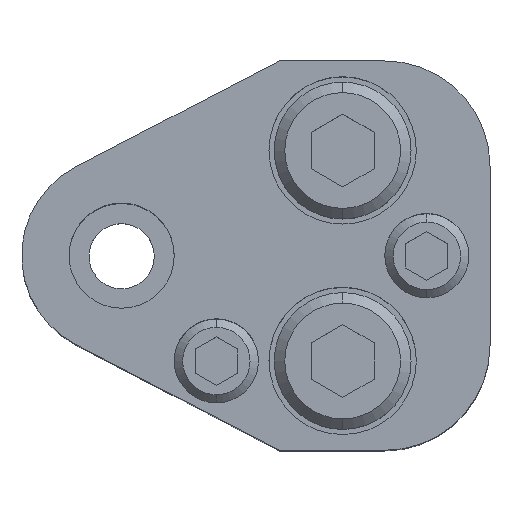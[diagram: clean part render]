
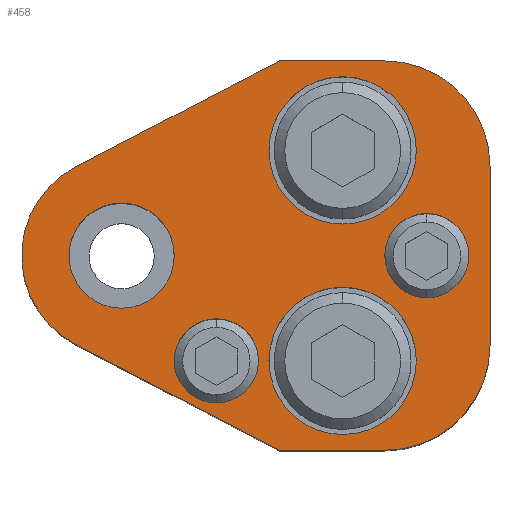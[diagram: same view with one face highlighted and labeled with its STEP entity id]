
A CAD part, top view. The second image highlights one B-rep face of the part: STEP entity #458.
In plain terms, the highlighted planar face has unit normal (0, 0, 1).
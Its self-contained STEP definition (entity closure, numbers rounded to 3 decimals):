
#217=FACE_BOUND('',#825,.T.);
#218=FACE_BOUND('',#826,.T.);
#219=FACE_BOUND('',#827,.T.);
#220=FACE_BOUND('',#828,.T.);
#221=FACE_BOUND('',#829,.T.);
#222=FACE_BOUND('',#830,.T.);
#273=CIRCLE('',#2646,9.5);
#275=CIRCLE('',#2651,10.);
#277=CIRCLE('',#2655,10.);
#295=CIRCLE('',#2683,7.);
#297=CIRCLE('',#2686,7.);
#299=CIRCLE('',#2690,7.);
#301=CIRCLE('',#2693,7.);
#303=CIRCLE('',#2697,4.);
#304=CIRCLE('',#2698,4.);
#305=CIRCLE('',#2699,4.);
#306=CIRCLE('',#2700,4.);
#307=CIRCLE('',#2701,5.);
#308=CIRCLE('',#2702,5.);
#458=ADVANCED_FACE('',(#217,#218,#219,#220,#221,#222),#588,.T.);
#588=PLANE('',#2703);
#825=EDGE_LOOP('',(#1181,#1182,#1183,#1184,#1185,#1186,#1187,#1188));
#826=EDGE_LOOP('',(#1189,#1190));
#827=EDGE_LOOP('',(#1191,#1192));
#828=EDGE_LOOP('',(#1193,#1194));
#829=EDGE_LOOP('',(#1195,#1196));
#830=EDGE_LOOP('',(#1197,#1198));
#1181=ORIENTED_EDGE('',*,*,#1934,.T.);
#1182=ORIENTED_EDGE('',*,*,#1938,.T.);
#1183=ORIENTED_EDGE('',*,*,#1941,.T.);
#1184=ORIENTED_EDGE('',*,*,#1944,.T.);
#1185=ORIENTED_EDGE('',*,*,#1947,.T.);
#1186=ORIENTED_EDGE('',*,*,#1950,.T.);
#1187=ORIENTED_EDGE('',*,*,#1953,.T.);
#1188=ORIENTED_EDGE('',*,*,#1956,.T.);
#1189=ORIENTED_EDGE('',*,*,#1991,.F.);
#1190=ORIENTED_EDGE('',*,*,#1992,.F.);
#1191=ORIENTED_EDGE('',*,*,#1993,.F.);
#1192=ORIENTED_EDGE('',*,*,#1994,.F.);
#1193=ORIENTED_EDGE('',*,*,#1989,.F.);
#1194=ORIENTED_EDGE('',*,*,#1985,.F.);
#1195=ORIENTED_EDGE('',*,*,#1983,.F.);
#1196=ORIENTED_EDGE('',*,*,#1979,.F.);
#1197=ORIENTED_EDGE('',*,*,#1995,.T.);
#1198=ORIENTED_EDGE('',*,*,#1996,.T.);
#1688=VERTEX_POINT('',#3846);
#1689=VERTEX_POINT('',#3848);
#1692=VERTEX_POINT('',#3855);
#1694=VERTEX_POINT('',#3861);
#1696=VERTEX_POINT('',#3867);
#1698=VERTEX_POINT('',#3873);
#1700=VERTEX_POINT('',#3879);
#1702=VERTEX_POINT('',#3885);
#1719=VERTEX_POINT('',#3938);
#1720=VERTEX_POINT('',#3939);
#1723=VERTEX_POINT('',#3951);
#1724=VERTEX_POINT('',#3952);
#1727=VERTEX_POINT('',#3964);
#1728=VERTEX_POINT('',#3965);
#1729=VERTEX_POINT('',#3968);
#1730=VERTEX_POINT('',#3969);
#1731=VERTEX_POINT('',#3972);
#1732=VERTEX_POINT('',#3973);
#1934=EDGE_CURVE('',#1689,#1688,#273,.T.);
#1938=EDGE_CURVE('',#1688,#1692,#2266,.T.);
#1941=EDGE_CURVE('',#1692,#1694,#2269,.T.);
#1944=EDGE_CURVE('',#1694,#1696,#275,.T.);
#1947=EDGE_CURVE('',#1696,#1698,#2273,.T.);
#1950=EDGE_CURVE('',#1698,#1700,#277,.T.);
#1953=EDGE_CURVE('',#1700,#1702,#2277,.T.);
#1956=EDGE_CURVE('',#1702,#1689,#2280,.T.);
#1979=EDGE_CURVE('',#1719,#1720,#295,.T.);
#1983=EDGE_CURVE('',#1720,#1719,#297,.T.);
#1985=EDGE_CURVE('',#1723,#1724,#299,.T.);
#1989=EDGE_CURVE('',#1724,#1723,#301,.T.);
#1991=EDGE_CURVE('',#1727,#1728,#303,.T.);
#1992=EDGE_CURVE('',#1728,#1727,#304,.T.);
#1993=EDGE_CURVE('',#1729,#1730,#305,.T.);
#1994=EDGE_CURVE('',#1730,#1729,#306,.T.);
#1995=EDGE_CURVE('',#1731,#1732,#307,.T.);
#1996=EDGE_CURVE('',#1732,#1731,#308,.T.);
#2266=LINE('',#3856,#2458);
#2269=LINE('',#3862,#2461);
#2273=LINE('',#3874,#2465);
#2277=LINE('',#3886,#2469);
#2280=LINE('',#3890,#2472);
#2458=VECTOR('',#3056,1.);
#2461=VECTOR('',#3061,1.);
#2465=VECTOR('',#3073,1.);
#2469=VECTOR('',#3085,1.);
#2472=VECTOR('',#3090,1.);
#2646=AXIS2_PLACEMENT_3D('',#3847,#3048,#3049);
#2651=AXIS2_PLACEMENT_3D('',#3868,#3066,#3067);
#2655=AXIS2_PLACEMENT_3D('',#3880,#3078,#3079);
#2683=AXIS2_PLACEMENT_3D('',#3937,#3145,#3146);
#2686=AXIS2_PLACEMENT_3D('',#3946,#3153,#3154);
#2690=AXIS2_PLACEMENT_3D('',#3950,#3161,#3162);
#2693=AXIS2_PLACEMENT_3D('',#3959,#3169,#3170);
#2697=AXIS2_PLACEMENT_3D('',#3963,#3177,#3178);
#2698=AXIS2_PLACEMENT_3D('',#3966,#3179,#3180);
#2699=AXIS2_PLACEMENT_3D('',#3967,#3181,#3182);
#2700=AXIS2_PLACEMENT_3D('',#3970,#3183,#3184);
#2701=AXIS2_PLACEMENT_3D('',#3971,#3185,#3186);
#2702=AXIS2_PLACEMENT_3D('',#3974,#3187,#3188);
#2703=AXIS2_PLACEMENT_3D('',#3975,#3189,#3190);
#3048=DIRECTION('',(0.,0.,1.));
#3049=DIRECTION('',(0.,1.,0.));
#3056=DIRECTION('',(0.887,-0.461,0.));
#3061=DIRECTION('',(1.,0.,0.));
#3066=DIRECTION('',(0.,0.,1.));
#3067=DIRECTION('',(-0.707,0.707,0.));
#3073=DIRECTION('',(0.,1.,0.));
#3078=DIRECTION('',(0.,0.,1.));
#3079=DIRECTION('',(-0.707,-0.707,0.));
#3085=DIRECTION('',(-1.,0.,0.));
#3090=DIRECTION('',(-0.887,-0.461,0.));
#3145=DIRECTION('',(0.,0.,1.));
#3146=DIRECTION('',(-1.,0.,0.));
#3153=DIRECTION('',(0.,0.,1.));
#3154=DIRECTION('',(1.,0.,0.));
#3161=DIRECTION('',(0.,0.,1.));
#3162=DIRECTION('',(-1.,0.,0.));
#3169=DIRECTION('',(0.,0.,1.));
#3170=DIRECTION('',(1.,0.,0.));
#3177=DIRECTION('',(0.,0.,1.));
#3178=DIRECTION('',(1.,0.,0.));
#3179=DIRECTION('',(0.,0.,1.));
#3180=DIRECTION('',(-1.,0.,0.));
#3181=DIRECTION('',(0.,0.,1.));
#3182=DIRECTION('',(1.,0.,0.));
#3183=DIRECTION('',(0.,0.,1.));
#3184=DIRECTION('',(-1.,0.,0.));
#3185=DIRECTION('',(0.,0.,-1.));
#3186=DIRECTION('',(-1.,0.,0.));
#3187=DIRECTION('',(0.,0.,-1.));
#3188=DIRECTION('',(1.,0.,0.));
#3189=DIRECTION('',(0.,0.,1.));
#3190=DIRECTION('',(0.887,0.461,0.));
#3846=CARTESIAN_POINT('',(-4.38,-8.43,40.));
#3847=CARTESIAN_POINT('',(0.,0.,40.));
#3848=CARTESIAN_POINT('',(-4.38,8.43,40.));
#3855=CARTESIAN_POINT('',(15.,-18.5,40.));
#3856=CARTESIAN_POINT('',(15.,-18.5,40.));
#3861=CARTESIAN_POINT('',(25.,-18.5,40.));
#3862=CARTESIAN_POINT('',(15.,-18.5,40.));
#3867=CARTESIAN_POINT('',(35.,-8.5,40.));
#3868=CARTESIAN_POINT('',(25.,-8.5,40.));
#3873=CARTESIAN_POINT('',(35.,8.5,40.));
#3874=CARTESIAN_POINT('',(35.,-8.5,40.));
#3879=CARTESIAN_POINT('',(25.,18.5,40.));
#3880=CARTESIAN_POINT('',(25.,8.5,40.));
#3885=CARTESIAN_POINT('',(15.,18.5,40.));
#3886=CARTESIAN_POINT('',(15.,18.5,40.));
#3890=CARTESIAN_POINT('',(15.,18.5,40.));
#3937=CARTESIAN_POINT('',(21.,10.,40.));
#3938=CARTESIAN_POINT('',(21.,3.,40.));
#3939=CARTESIAN_POINT('',(21.,17.,40.));
#3946=CARTESIAN_POINT('',(21.,10.,40.));
#3950=CARTESIAN_POINT('',(21.,-10.,40.));
#3951=CARTESIAN_POINT('',(21.,-17.,40.));
#3952=CARTESIAN_POINT('',(21.,-3.,40.));
#3959=CARTESIAN_POINT('',(21.,-10.,40.));
#3963=CARTESIAN_POINT('',(9.,-10.,40.));
#3964=CARTESIAN_POINT('',(9.,-6.,40.));
#3965=CARTESIAN_POINT('',(9.,-14.,40.));
#3966=CARTESIAN_POINT('',(9.,-10.,40.));
#3967=CARTESIAN_POINT('',(29.,0.,40.));
#3968=CARTESIAN_POINT('',(29.,4.,40.));
#3969=CARTESIAN_POINT('',(29.,-4.,40.));
#3970=CARTESIAN_POINT('',(29.,0.,40.));
#3971=CARTESIAN_POINT('',(0.,0.,40.));
#3972=CARTESIAN_POINT('',(0.,5.,40.));
#3973=CARTESIAN_POINT('',(0.,-5.,40.));
#3974=CARTESIAN_POINT('',(0.,0.,40.));
#3975=CARTESIAN_POINT('',(-4.38,8.43,40.));
